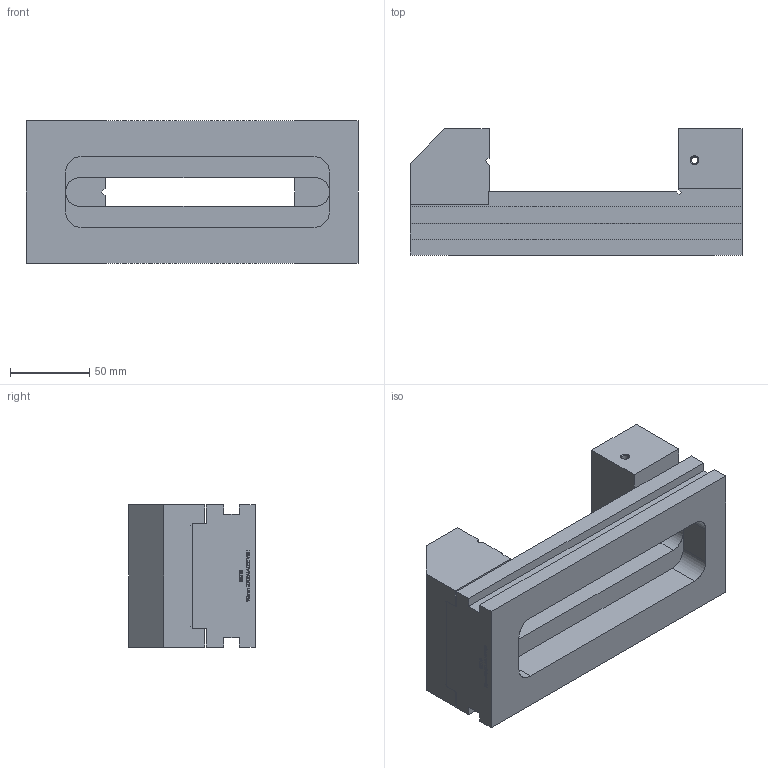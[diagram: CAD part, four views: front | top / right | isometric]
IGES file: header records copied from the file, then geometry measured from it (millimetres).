
Start section: SolidWorks IGES file using analytic representation for surfaces
Global section: file name: \\tormach-dc\Published Documents\Drawings\Files saved as other types\Solid_Models\MODELS FOR PUBLIC\33110 90mm TOOLMAKER VISE.IGS; native system: SolidWorks 2014; preprocessor: SolidWorks 2014; author: rtooley; date: 160601.112958; units: millimetre
Bounding box: 210 x 80 x 90 mm (x, y, z)
Surface area: 110684.8 mm2 (no closed solid volume)
Topology: 0 solids, 0 shells, 357 faces, 3866 edges, 3866 vertices
Faces by surface type: bspline 345, revolution 12
